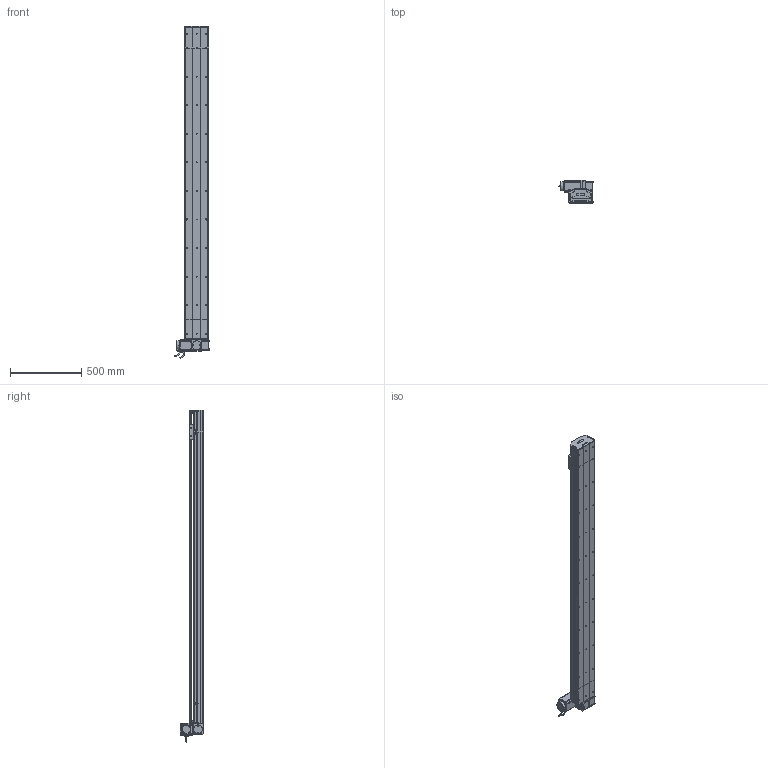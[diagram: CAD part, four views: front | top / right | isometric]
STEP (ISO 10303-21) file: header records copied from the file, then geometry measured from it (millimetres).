
FILE_DESCRIPTION (( 'STEP AP214' ), '1' );
FILE_NAME ('D17 TBN LT S1900.STEP', '2010-06-30T11:13:40', ( 'Christophe Gaillard' ), ( 'SGA' ), 'SwSTEP 2.0', 'SolidWorks 2010', '' );
FILE_SCHEMA (( 'AUTOMOTIVE_DESIGN' ));
Length unit declared in the file: millimetre
Products named in the file (40): cache arbre D17_Default; D17 TBN LT S1900; couvercle D17B head_Default; Couroie+ rail D17 Course 1900 ; avant 90BLDC125A-640; corps 90BLDC125A-640; vis M5 L5_Default; codeur 90BLDC125-640; Conecteur2_Default; course 1900 D17B_Default; couroie head D17_Default; corp D17B 1900_Default; couvercle D17B course L1900_Default; Head LT D17B_Default; corpl head D17 _Default; Renvoi LT_Default; Moteur motionking 90BLDC125A-640; Conecteur_Default; vis M5 L70_Default; Arbre+rail head D17B; plaque de  bout head D17B LT_Default; poulie head_Default; Chariot D17 TBN; chariot D17 TBN; vis M5 L25_Default; vis M5 L12_Default; vis M5 L8 90°_Default; Plaque racord D17_Default; Rail D17B; tete d''axe poulie D17B; corp tail D17B+100_Default; couvercle D17B_Default; Couroie tail D17B_Default; guide D17; poulie tail_Default; plaque de  bout tail D17B_Default; Tail D17B+100_Default; Vis M5 L16-2_Default; vis M5 L16_Default; cache D17_Default
Assembly tree (66 placements, depth 4):
  D17 TBN LT S1900
    course 1900 D17B_Default
      couvercle D17B course L1900_Default
      Couroie+ rail D17 Course 1900 
      corp D17B 1900_Default
    Head LT D17B_Default
      vis M5 L70_Default  x4
      vis M5 L12_Default  x8
      vis M5 L16_Default  x2
      Renvoi LT_Default
      Arbre+rail head D17B
      vis M5 L25_Default  x2
      vis M5 L5_Default  x4
      Vis M5 L16-2_Default  x4
      cache D17_Default  x2
      Moteur motionking 90BLDC125A-640
        avant 90BLDC125A-640
        Conecteur2_Default
        Conecteur_Default
        corps 90BLDC125A-640
        codeur 90BLDC125-640
      poulie head_Default
      couroie head D17_Default
      couvercle D17B head_Default
      corpl head D17 _Default
      Plaque racord D17_Default
      plaque de  bout head D17B LT_Default
      cache arbre D17_Default
    chariot D17 TBN
      guide D17  x2
      Chariot D17 TBN
    Tail D17B+100_Default
      poulie tail_Default
      couvercle D17B_Default
      vis M5 L8 90°_Default  x2
      tete d''axe poulie D17B
      vis M5 L12_Default  x4
      plaque de  bout tail D17B_Default
      corp tail D17B+100_Default
      vis M5 L25_Default  x2
      Couroie tail D17B_Default
      Rail D17B
Bounding box: 245.2 x 166.15 x 2323.95 mm (x, y, z)
Volume: 13658386.2 mm3; surface area: 3930953.6 mm2
Topology: 89 solids, 89 shells, 2595 faces, 6623 edges, 4270 vertices
Faces by surface type: plane 1537, cylinder 761, bspline 136, cone 80, torus 77, sphere 4
Entity records: 84093 total; most frequent: CARTESIAN_POINT 25053, ORIENTED_EDGE 10418, DIRECTION 9838, EDGE_CURVE 5209, VECTOR 3460, LINE 3460, VERTEX_POINT 3414, AXIS2_PLACEMENT_3D 3189
